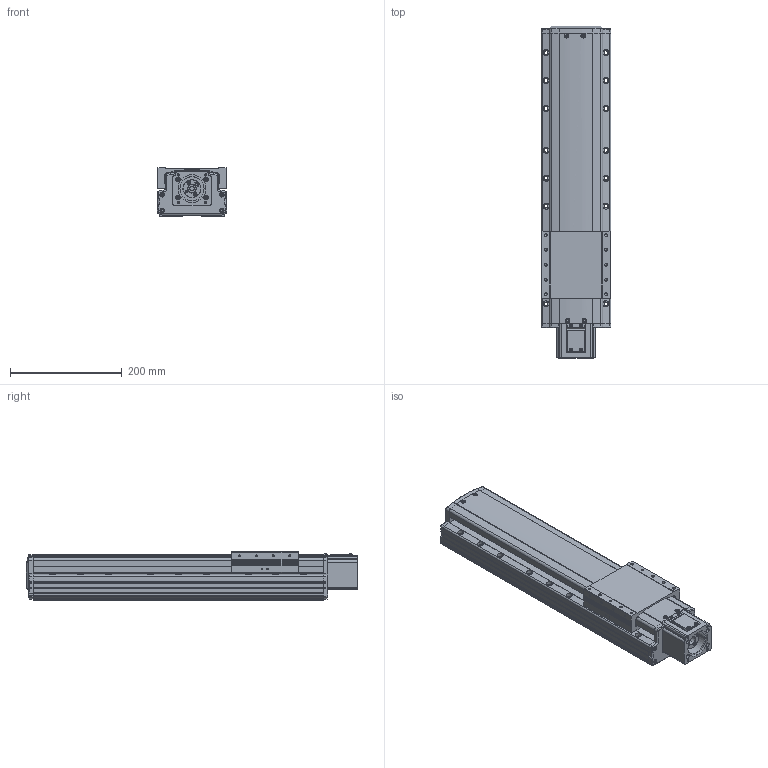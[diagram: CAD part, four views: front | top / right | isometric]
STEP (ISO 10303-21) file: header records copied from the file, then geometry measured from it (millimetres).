
FILE_DESCRIPTION(('STEP AP214'),'1');
FILE_NAME('Z:/Web/3D/PSA125/STP/PSA125-300 (3D)/PSA125ㅁㅁ-300S.stp','2014-06-22T23:33:24',(' '),(' '),'Spatial InterOp 3D',' ',' ');
FILE_SCHEMA(('automotive_design'));
Length unit declared in the file: millimetre
Products named in the file (35): 스크루 : Round - M4.0 x 10.0; RRCV-PA120; SLIDE; BASE; FRCV-PA120-1(기준 뿔 제거); RR1500; 스크루 : Round - M4.0 x 6.0; 너트 : Square - M10.0 x 220.7419; SSFX-SAN65; CPLCV-SAN65; 스크루 : Round - M3.0 x 6.0; MTHZ-PA120-S60A-3; 스크루 : Socket - M4.0 x 20.0; FRCV; NONE
Bounding box: 125 x 594.6 x 86 mm (x, y, z)
Volume: 4762781.2 mm3; surface area: 481308.2 mm2
Topology: 35 solids, 69 shells, 3154 faces, 8078 edges, 5076 vertices
Faces by surface type: plane 1465, cylinder 999, cone 425, torus 174, sphere 50, bspline 41
Entity records: 124360 total; most frequent: CARTESIAN_POINT 20682, DIRECTION 16944, ORIENTED_EDGE 15844, EDGE_CURVE 7922, AXIS2_PLACEMENT_3D 6118, VERTEX_POINT 5076, LINE 4708, VECTOR 4708
